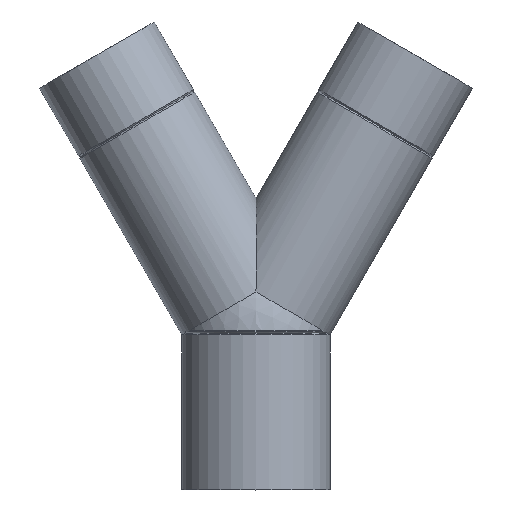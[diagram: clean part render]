
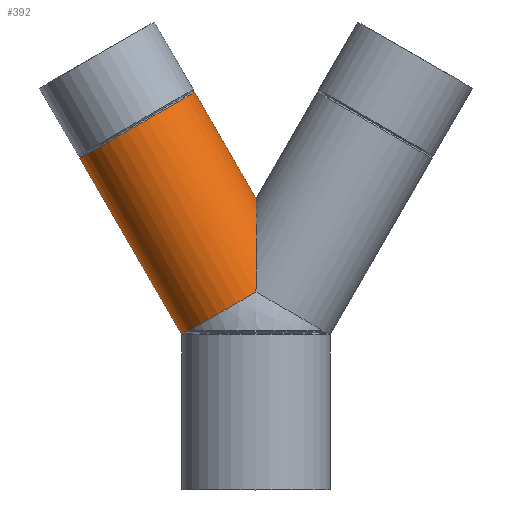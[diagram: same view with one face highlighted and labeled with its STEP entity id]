
A CAD part, top view. The second image highlights one B-rep face of the part: STEP entity #392.
In plain terms, the highlighted cylindrical face has radius 25 mm (diameter 50 mm), a full revolution.
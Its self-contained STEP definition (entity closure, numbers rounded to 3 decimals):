
#20=ELLIPSE($,#444,50.,25.);
#31=FACE_BOUND($,#94,.T.);
#62=FACE_OUTER_BOUND($,#93,.T.);
#93=EDGE_LOOP($,(#278,#279,#280,#281,#282,#283));
#94=EDGE_LOOP($,(#284));
#131=CIRCLE($,#430,25.);
#138=CIRCLE($,#445,25.);
#139=CIRCLE($,#446,25.);
#156=B_SPLINE_CURVE_WITH_KNOTS($,3,(#634,#635,#636,#637,#638,#639,#640,
#641,#642,#643,#644,#645,#646,#647),.UNSPECIFIED.,.F.,.F.,(4,2,2,2,2,2,
4),(3.05,3.132,3.605,4.078,
4.551,5.024,5.106),.UNSPECIFIED.);
#158=B_SPLINE_CURVE_WITH_KNOTS($,3,(#665,#666,#667,#668),.UNSPECIFIED.,
 .F.,.F.,(4,4),(2.863,3.05),.UNSPECIFIED.);
#160=B_SPLINE_CURVE_WITH_KNOTS($,3,(#716,#717,#718,#719),.UNSPECIFIED.,
 .F.,.F.,(4,4),(5.106,5.293),.UNSPECIFIED.);
#166=VERTEX_POINT($,#632);
#167=VERTEX_POINT($,#633);
#171=VERTEX_POINT($,#663);
#175=VERTEX_POINT($,#678);
#184=VERTEX_POINT($,#711);
#185=VERTEX_POINT($,#712);
#186=VERTEX_POINT($,#714);
#200=EDGE_CURVE($,#166,#167,#156,.T.);
#208=EDGE_CURVE($,#171,#166,#158,.T.);
#212=EDGE_CURVE($,#175,#175,#131,.T.);
#223=EDGE_CURVE($,#184,#185,#20,.T.);
#224=EDGE_CURVE($,#186,#184,#138,.T.);
#225=EDGE_CURVE($,#167,#186,#160,.T.);
#226=EDGE_CURVE($,#185,#171,#139,.T.);
#278=ORIENTED_EDGE($,*,*,#223,.F.);
#279=ORIENTED_EDGE($,*,*,#224,.F.);
#280=ORIENTED_EDGE($,*,*,#225,.F.);
#281=ORIENTED_EDGE($,*,*,#200,.F.);
#282=ORIENTED_EDGE($,*,*,#208,.F.);
#283=ORIENTED_EDGE($,*,*,#226,.F.);
#284=ORIENTED_EDGE($,*,*,#212,.T.);
#344=CYLINDRICAL_SURFACE($,#443,25.);
#392=ADVANCED_FACE($,(#62,#31),#344,.T.);
#430=AXIS2_PLACEMENT_3D($,#679,#516,#517);
#443=AXIS2_PLACEMENT_3D($,#710,#542,#543);
#444=AXIS2_PLACEMENT_3D($,#713,#544,#545);
#445=AXIS2_PLACEMENT_3D($,#715,#546,#547);
#446=AXIS2_PLACEMENT_3D($,#720,#548,#549);
#516=DIRECTION('center_axis',(0.5,-0.866,0.));
#517=DIRECTION('ref_axis',(-0.866,-0.5,0.));
#542=DIRECTION('center_axis',(-0.5,0.866,0.));
#543=DIRECTION('ref_axis',(-0.866,-0.5,0.));
#544=DIRECTION('center_axis',(1.,0.,0.));
#545=DIRECTION('ref_axis',(0.,-1.,0.));
#546=DIRECTION('center_axis',(0.5,-0.866,0.));
#547=DIRECTION('ref_axis',(-0.866,-0.5,0.));
#548=DIRECTION('center_axis',(0.5,-0.866,0.));
#549=DIRECTION('ref_axis',(-0.866,-0.5,0.));
#632=CARTESIAN_POINT('',(-25.996,59.56,10.401));
#633=CARTESIAN_POINT('',(-25.996,59.56,-10.401));
#634=CARTESIAN_POINT('Ctrl Pts',(-25.996,59.56,10.401));
#635=CARTESIAN_POINT('Ctrl Pts',(-26.102,59.501,10.136));
#636=CARTESIAN_POINT('Ctrl Pts',(-26.205,59.445,9.869));
#637=CARTESIAN_POINT('Ctrl Pts',(-26.866,59.083,8.057));
#638=CARTESIAN_POINT('Ctrl Pts',(-27.297,58.859,6.446));
#639=CARTESIAN_POINT('Ctrl Pts',(-27.864,58.566,3.206));
#640=CARTESIAN_POINT('Ctrl Pts',(-28.,58.497,1.576));
#641=CARTESIAN_POINT('Ctrl Pts',(-28.,58.497,-1.576));
#642=CARTESIAN_POINT('Ctrl Pts',(-27.864,58.566,-3.206));
#643=CARTESIAN_POINT('Ctrl Pts',(-27.297,58.859,-6.446));
#644=CARTESIAN_POINT('Ctrl Pts',(-26.866,59.083,-8.057));
#645=CARTESIAN_POINT('Ctrl Pts',(-26.205,59.445,-9.869));
#646=CARTESIAN_POINT('Ctrl Pts',(-26.102,59.501,-10.136));
#647=CARTESIAN_POINT('Ctrl Pts',(-25.996,59.56,-10.401));
#663=CARTESIAN_POINT('',(-25.219,60.,12.166));
#665=CARTESIAN_POINT('Ctrl Pts',(-25.219,60.,12.166));
#666=CARTESIAN_POINT('Ctrl Pts',(-25.496,59.84,11.591));
#667=CARTESIAN_POINT('Ctrl Pts',(-25.756,59.693,11.002));
#668=CARTESIAN_POINT('Ctrl Pts',(-25.996,59.56,10.401));
#678=CARTESIAN_POINT('',(-66.371,124.957,0.));
#679=CARTESIAN_POINT('Origin',(-44.72,137.457,0.));
#710=CARTESIAN_POINT('Origin',(-60.,163.923,0.));
#711=CARTESIAN_POINT('',(0.,74.56,-23.917));
#712=CARTESIAN_POINT('',(0.,74.56,23.917));
#713=CARTESIAN_POINT('Origin',(0.,60.,0.));
#714=CARTESIAN_POINT('',(-25.219,60.,-12.166));
#715=CARTESIAN_POINT('Origin',(-6.305,70.92,0.));
#716=CARTESIAN_POINT('Ctrl Pts',(-25.996,59.56,-10.401));
#717=CARTESIAN_POINT('Ctrl Pts',(-25.756,59.693,-11.002));
#718=CARTESIAN_POINT('Ctrl Pts',(-25.496,59.84,-11.591));
#719=CARTESIAN_POINT('Ctrl Pts',(-25.219,60.,-12.166));
#720=CARTESIAN_POINT('Origin',(-6.305,70.92,0.));
